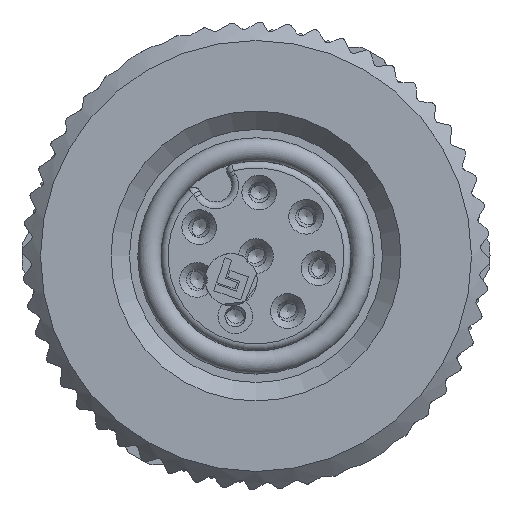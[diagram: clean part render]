
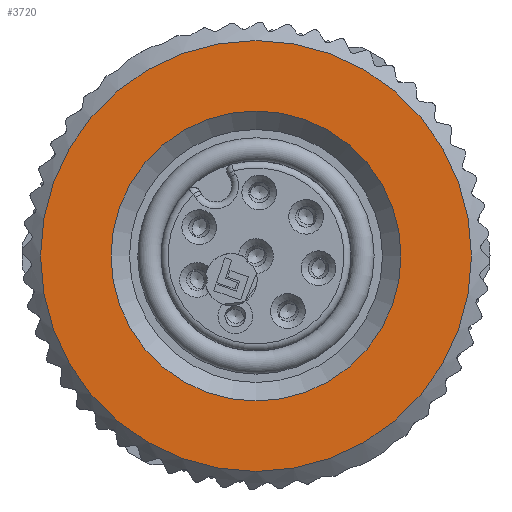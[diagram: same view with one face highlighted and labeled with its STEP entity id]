
A CAD part, left-side view. The second image highlights one B-rep face of the part: STEP entity #3720.
In plain terms, the highlighted planar face has unit normal (-1, 0, 0).
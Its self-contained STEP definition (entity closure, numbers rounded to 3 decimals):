
#99=PLANE('',#13335);
#3720=ADVANCED_FACE('',(#4680,#4681),#99,.T.);
#4680=FACE_BOUND('',#4811,.T.);
#4681=FACE_BOUND('',#4812,.T.);
#4811=EDGE_LOOP('',(#6017));
#4812=EDGE_LOOP('',(#6018));
#6017=ORIENTED_EDGE('',*,*,#11243,.T.);
#6018=ORIENTED_EDGE('',*,*,#11009,.T.);
#9697=VERTEX_POINT('',#20040);
#9915=VERTEX_POINT('',#20546);
#11009=EDGE_CURVE('',#9697,#9697,#12768,.T.);
#11243=EDGE_CURVE('',#9915,#9915,#12876,.T.);
#12768=CIRCLE('',#13208,9.3);
#12876=CIRCLE('',#13334,6.259);
#13208=AXIS2_PLACEMENT_3D('',#20039,#14417,#14418);
#13334=AXIS2_PLACEMENT_3D('',#20545,#14783,#14784);
#13335=AXIS2_PLACEMENT_3D('',#20547,#14785,#14786);
#14417=DIRECTION('',(-1.,0.,0.));
#14418=DIRECTION('',(0.,0.5,0.866));
#14783=DIRECTION('',(1.,0.,0.));
#14784=DIRECTION('',(0.,0.5,0.866));
#14785=DIRECTION('',(-1.,0.,0.));
#14786=DIRECTION('',(0.,-0.5,-0.866));
#20039=CARTESIAN_POINT('',(-12.15,-0.006,-0.013));
#20040=CARTESIAN_POINT('',(-12.15,4.644,8.041));
#20545=CARTESIAN_POINT('',(-12.15,-0.006,-0.013));
#20546=CARTESIAN_POINT('',(-12.15,3.123,5.407));
#20547=CARTESIAN_POINT('',(-12.15,-0.006,-0.013));
